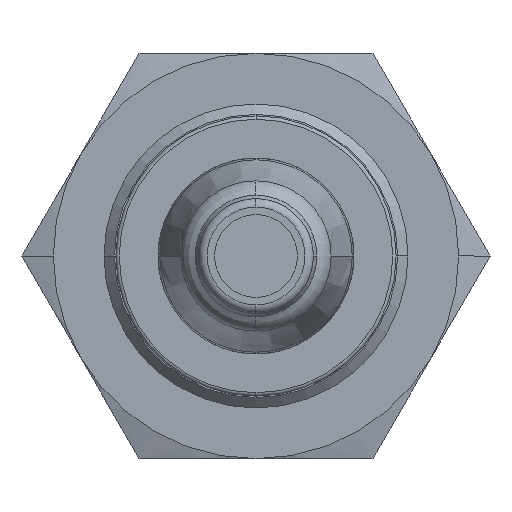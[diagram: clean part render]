
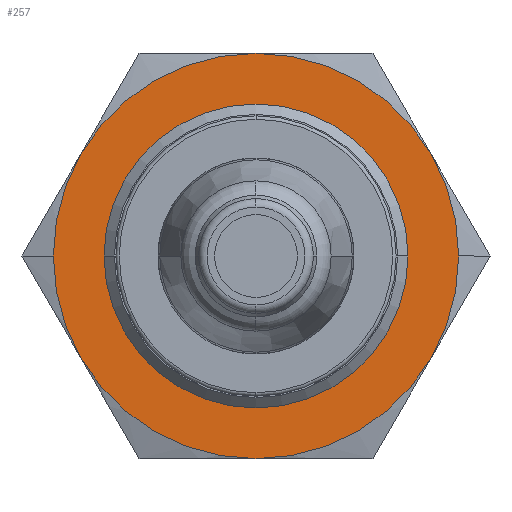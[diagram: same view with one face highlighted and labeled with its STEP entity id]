
A CAD part, left-side view. The second image highlights one B-rep face of the part: STEP entity #257.
In plain terms, the highlighted planar face has unit normal (-1, 0, 0).
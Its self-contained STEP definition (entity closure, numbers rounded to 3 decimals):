
#257 = ADVANCED_FACE( '', ( #469, #470 ), #471, .T. );
#469 = FACE_BOUND( '', #714, .T. );
#470 = FACE_OUTER_BOUND( '', #715, .T. );
#471 = PLANE( '', #716 );
#714 = EDGE_LOOP( '', ( #1425, #1426 ) );
#715 = EDGE_LOOP( '', ( #1427, #1428, #1429, #1430, #1431, #1432, #1433, #1434 ) );
#716 = AXIS2_PLACEMENT_3D( '', #1435, #1436, #1437 );
#1425 = ORIENTED_EDGE( '', *, *, #1854, .T. );
#1426 = ORIENTED_EDGE( '', *, *, #1792, .T. );
#1427 = ORIENTED_EDGE( '', *, *, #1850, .T. );
#1428 = ORIENTED_EDGE( '', *, *, #1803, .T. );
#1429 = ORIENTED_EDGE( '', *, *, #1845, .T. );
#1430 = ORIENTED_EDGE( '', *, *, #1846, .T. );
#1431 = ORIENTED_EDGE( '', *, *, #1805, .T. );
#1432 = ORIENTED_EDGE( '', *, *, #1847, .T. );
#1433 = ORIENTED_EDGE( '', *, *, #1848, .T. );
#1434 = ORIENTED_EDGE( '', *, *, #1849, .T. );
#1435 = CARTESIAN_POINT( '', ( 34., 6., 0. ) );
#1436 = DIRECTION( '', ( -1., 0., 0. ) );
#1437 = DIRECTION( '', ( 0., 1., 0. ) );
#1792 = EDGE_CURVE( '', #2144, #2141, #2145, .T. );
#1803 = EDGE_CURVE( '', #2160, #2162, #2164, .T. );
#1805 = EDGE_CURVE( '', #2168, #2165, #2169, .T. );
#1845 = EDGE_CURVE( '', #2162, #2188, #2231, .T. );
#1846 = EDGE_CURVE( '', #2188, #2168, #2232, .T. );
#1847 = EDGE_CURVE( '', #2165, #2219, #2233, .T. );
#1848 = EDGE_CURVE( '', #2219, #2211, #2234, .T. );
#1849 = EDGE_CURVE( '', #2211, #2198, #2235, .T. );
#1850 = EDGE_CURVE( '', #2198, #2160, #2236, .T. );
#1854 = EDGE_CURVE( '', #2141, #2144, #2240, .T. );
#2141 = VERTEX_POINT( '', #2877 );
#2144 = VERTEX_POINT( '', #2881 );
#2145 = CIRCLE( '', #2882, 9. );
#2160 = VERTEX_POINT( '', #2902 );
#2162 = VERTEX_POINT( '', #2905 );
#2164 = CIRCLE( '', #2916, 12. );
#2165 = VERTEX_POINT( '', #2917 );
#2168 = VERTEX_POINT( '', #2921 );
#2169 = CIRCLE( '', #2922, 12. );
#2188 = VERTEX_POINT( '', #2980 );
#2198 = VERTEX_POINT( '', #3028 );
#2211 = VERTEX_POINT( '', #3105 );
#2219 = VERTEX_POINT( '', #3150 );
#2231 = CIRCLE( '', #3199, 12. );
#2232 = CIRCLE( '', #3200, 12. );
#2233 = CIRCLE( '', #3201, 12. );
#2234 = CIRCLE( '', #3202, 12. );
#2235 = CIRCLE( '', #3203, 12. );
#2236 = CIRCLE( '', #3204, 12. );
#2240 = CIRCLE( '', #3208, 9. );
#2877 = CARTESIAN_POINT( '', ( 34., 9., 0. ) );
#2881 = CARTESIAN_POINT( '', ( 34., -9., 0. ) );
#2882 = AXIS2_PLACEMENT_3D( '', #3831, #3832, #3833 );
#2902 = CARTESIAN_POINT( '', ( 34., 12., 0. ) );
#2905 = CARTESIAN_POINT( '', ( 34., 10.392, -6. ) );
#2916 = AXIS2_PLACEMENT_3D( '', #3849, #3850, #3851 );
#2917 = CARTESIAN_POINT( '', ( 34., -12., 0. ) );
#2921 = CARTESIAN_POINT( '', ( 34., -10.392, -6. ) );
#2922 = AXIS2_PLACEMENT_3D( '', #3853, #3854, #3855 );
#2980 = CARTESIAN_POINT( '', ( 34., 0., -12. ) );
#3028 = CARTESIAN_POINT( '', ( 34., 10.392, 6. ) );
#3105 = CARTESIAN_POINT( '', ( 34., 0., 12. ) );
#3150 = CARTESIAN_POINT( '', ( 34., -10.392, 6. ) );
#3199 = AXIS2_PLACEMENT_3D( '', #3888, #3889, #3890 );
#3200 = AXIS2_PLACEMENT_3D( '', #3891, #3892, #3893 );
#3201 = AXIS2_PLACEMENT_3D( '', #3894, #3895, #3896 );
#3202 = AXIS2_PLACEMENT_3D( '', #3897, #3898, #3899 );
#3203 = AXIS2_PLACEMENT_3D( '', #3900, #3901, #3902 );
#3204 = AXIS2_PLACEMENT_3D( '', #3903, #3904, #3905 );
#3208 = AXIS2_PLACEMENT_3D( '', #3915, #3916, #3917 );
#3831 = CARTESIAN_POINT( '', ( 34., 0., 0. ) );
#3832 = DIRECTION( '', ( 1., 0., 0. ) );
#3833 = DIRECTION( '', ( 0., 1., 0. ) );
#3849 = CARTESIAN_POINT( '', ( 34., 0., 0. ) );
#3850 = DIRECTION( '', ( -1., 0., 0. ) );
#3851 = DIRECTION( '', ( 0., 1., 0. ) );
#3853 = CARTESIAN_POINT( '', ( 34., 0., 0. ) );
#3854 = DIRECTION( '', ( -1., 0., 0. ) );
#3855 = DIRECTION( '', ( 0., 1., 0. ) );
#3888 = CARTESIAN_POINT( '', ( 34., 0., 0. ) );
#3889 = DIRECTION( '', ( -1., 0., 0. ) );
#3890 = DIRECTION( '', ( 0., 1., 0. ) );
#3891 = CARTESIAN_POINT( '', ( 34., 0., 0. ) );
#3892 = DIRECTION( '', ( -1., 0., 0. ) );
#3893 = DIRECTION( '', ( 0., 1., 0. ) );
#3894 = CARTESIAN_POINT( '', ( 34., 0., 0. ) );
#3895 = DIRECTION( '', ( -1., 0., 0. ) );
#3896 = DIRECTION( '', ( 0., 1., 0. ) );
#3897 = CARTESIAN_POINT( '', ( 34., 0., 0. ) );
#3898 = DIRECTION( '', ( -1., 0., 0. ) );
#3899 = DIRECTION( '', ( 0., 1., 0. ) );
#3900 = CARTESIAN_POINT( '', ( 34., 0., 0. ) );
#3901 = DIRECTION( '', ( -1., 0., 0. ) );
#3902 = DIRECTION( '', ( 0., 1., 0. ) );
#3903 = CARTESIAN_POINT( '', ( 34., 0., 0. ) );
#3904 = DIRECTION( '', ( -1., 0., 0. ) );
#3905 = DIRECTION( '', ( 0., 1., 0. ) );
#3915 = CARTESIAN_POINT( '', ( 34., 0., 0. ) );
#3916 = DIRECTION( '', ( 1., 0., 0. ) );
#3917 = DIRECTION( '', ( 0., 1., 0. ) );
